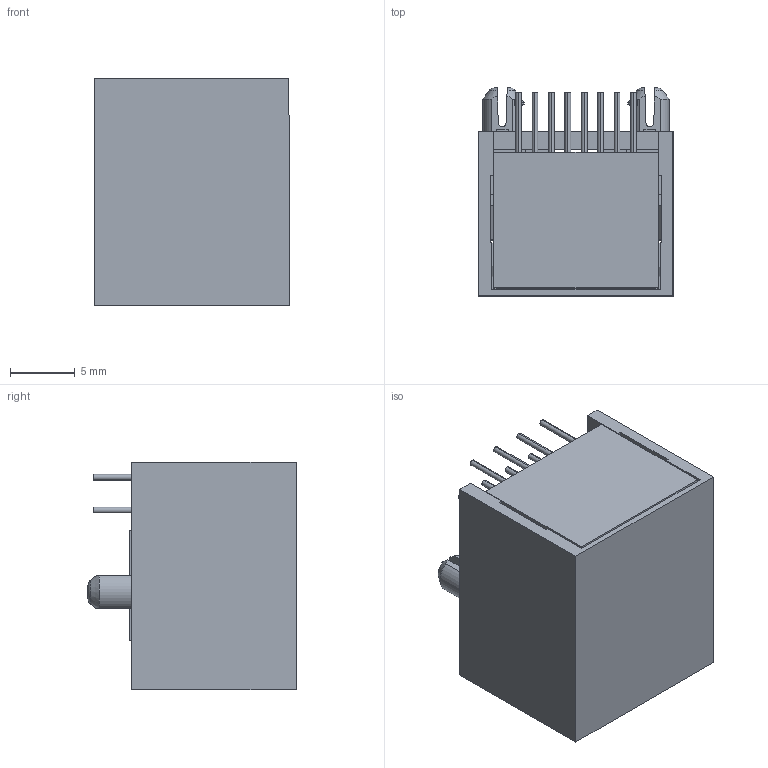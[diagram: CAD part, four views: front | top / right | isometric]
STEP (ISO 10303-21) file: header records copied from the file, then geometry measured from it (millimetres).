
FILE_DESCRIPTION (( 'STEP AP203' ), '1' );
FILE_NAME ('HC-RJ45-058-1-6 (全塑-HCTL).STEP', '2025-12-19T06:39:12', ( '' ), ( '' ), 'SwSTEP 2.0', 'SolidWorks 2025', '' );
FILE_SCHEMA (( 'CONFIG_CONTROL_DESIGN' ));
Length unit declared in the file: millimetre
Products named in the file (1): HC-RJ45-058-1-6  (全塑-HCTL)
Bounding box: 15.1 x 16.1 x 17.6 mm (x, y, z)
Volume: 1873.6 mm3; surface area: 4015.5 mm2
Topology: 27 solids, 27 shells, 667 faces, 1777 edges, 1162 vertices
Faces by surface type: plane 390, cylinder 190, torus 58, cone 29
Entity records: 20842 total; most frequent: CARTESIAN_POINT 4343, ORIENTED_EDGE 3554, DIRECTION 3272, EDGE_CURVE 1777, LINE 1178, VECTOR 1178, VERTEX_POINT 1162, AXIS2_PLACEMENT_3D 1047
